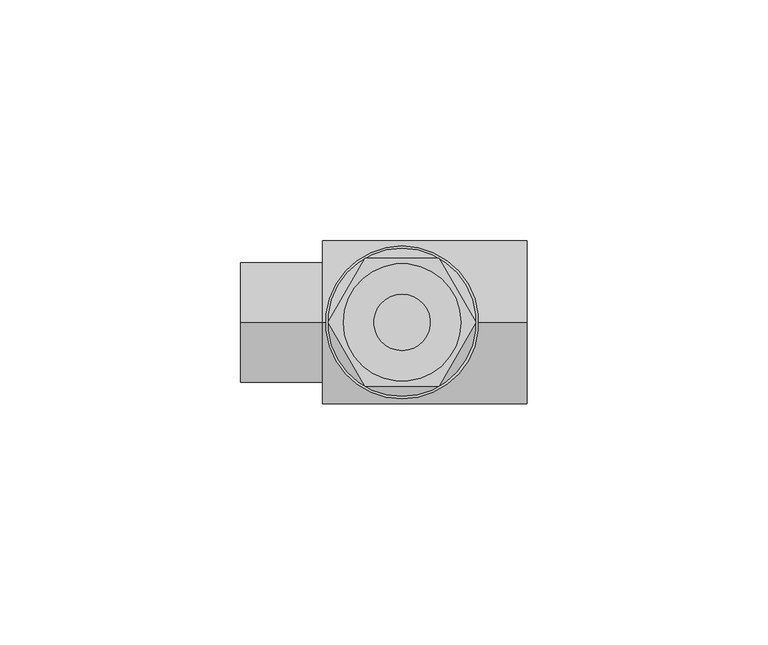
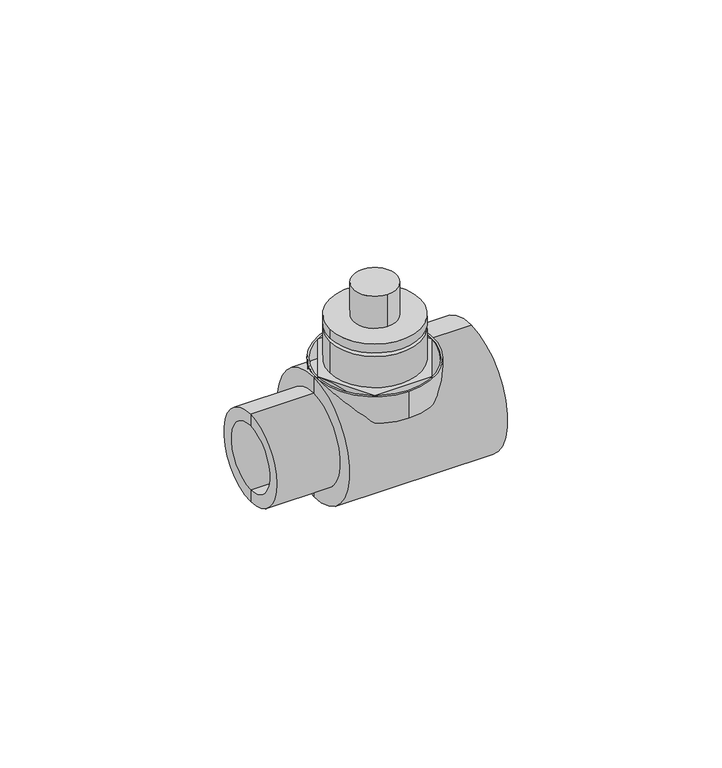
"""IFC4 building model written with IfcOpenShell, lengths in millimetres: valve geometry, Aquatherm - Draining Branch : DRAINING BRANCH."""

from ifc_helpers import new_model, si_unit, point, frame, origin, origin_2d, place, context, project, spatial, polyline, circle_curve, trimmed, segment, composite_curve, outline, extrude, source, transform, mapped, element, save
from ifc_brep_helpers import plane_surface, cylinder_surface, revolved_surface, advanced_brep


def valve_3e8b2c76(model_context):
    return source(origin(), model_context, "Body", "SolidModel", [
        extrude(outline(composite_curve([segment(trimmed(circle_curve(origin_2d(), 5.842), [point((0.0, 5.842))], [point((0.0, -5.842))], False, "CARTESIAN"), True, "CONTINUOUS"), segment(trimmed(circle_curve(origin_2d(), 5.842), [point((0.0, -5.842))], [point((0.0, 5.842))], False, "CARTESIAN"), True, "CONTINUOUS")], self_intersect=False)), frame((0.0, 0.0, 29.21), z_axis=(0.0, 0.0, 1.0), x_axis=(1.0, 0.0, 0.0)), (0.0, 0.0, 1.0), 9.144),
        extrude(outline(composite_curve([segment(trimmed(circle_curve(origin_2d(), 12.192), [point((12.192, 0.0))], [point((-12.192, 0.0))], False, "CARTESIAN"), True, "CONTINUOUS"), segment(trimmed(circle_curve(origin_2d(), 12.192), [point((-12.192, 0.0))], [point((12.192, 0.0))], False, "CARTESIAN"), True, "CONTINUOUS")], self_intersect=False)), frame((0.0, 0.0, 26.67), z_axis=(0.0, 0.0, 1.0), x_axis=(1.0, 0.0, 0.0)), (0.0, 0.0, 1.0), 2.54),
        extrude(outline(composite_curve([segment(trimmed(circle_curve(origin_2d(), 6.35), [point((6.35, 0.0))], [point((-6.35, 0.0))], False, "CARTESIAN"), True, "CONTINUOUS"), segment(trimmed(circle_curve(origin_2d(), 6.35), [point((-6.35, 0.0))], [point((6.35, 0.0))], False, "CARTESIAN"), True, "CONTINUOUS")], self_intersect=False)), frame((0.0, 0.0, 25.654), z_axis=(0.0, 0.0, 1.0), x_axis=(1.0, 0.0, 0.0)), (0.0, 0.0, 1.0), 1.016),
        extrude(outline(composite_curve([segment(trimmed(circle_curve(origin_2d(), 12.192), [point((12.192, 0.0))], [point((-12.192, 0.0))], False, "CARTESIAN"), True, "CONTINUOUS"), segment(trimmed(circle_curve(origin_2d(), 12.192), [point((-12.192, 0.0))], [point((12.192, 0.0))], False, "CARTESIAN"), True, "CONTINUOUS")], self_intersect=False)), frame((0.0, 0.0, 16.764), z_axis=(0.0, 0.0, 1.0), x_axis=(1.0, 0.0, 0.0)), (0.0, 0.0, 1.0), 8.89),
        extrude(outline(polyline([(15.367, 0.0), (7.6835, -13.3082124), (-7.6835, -13.3082124), (-15.367, 0.0), (-7.6835, 13.3082124), (7.6835, 13.3082124), (15.367, 0.0)])), frame((0.0, 0.0, 13.462), z_axis=(0.0, 0.0, 1.0), x_axis=(1.0, 0.0, 0.0)), (0.0, 0.0, 1.0), 3.302),
        extrude(outline(composite_curve([segment(trimmed(circle_curve(origin_2d(), 15.875), [point((0.0, 15.875))], [point((0.0, -15.875))], False, "CARTESIAN"), True, "CONTINUOUS"), segment(trimmed(circle_curve(origin_2d(), 15.875), [point((0.0, -15.875))], [point((0.0, 15.875))], False, "CARTESIAN"), True, "CONTINUOUS")], self_intersect=False), holes=[composite_curve([segment(trimmed(circle_curve(origin_2d(), 15.367), [point((0.0, 15.367))], [point((0.0, -15.367))], True, "CARTESIAN"), True, "CONTINUOUS"), segment(trimmed(circle_curve(origin_2d(), 15.367), [point((0.0, -15.367))], [point((0.0, 15.367))], True, "CARTESIAN"), True, "CONTINUOUS")], self_intersect=False)]), frame((0.0, 0.0, 9.144), z_axis=(0.0, 0.0, 1.0), x_axis=(1.0, 0.0, 0.0)), (0.0, 0.0, 1.0), 7.62),
        advanced_brep(
        [(-16.51, 0.0, -17.018), (-16.51, 0.0, 17.018), (25.908, 0.0, 17.018), (25.908, 0.0, -17.018), (-16.51, 0.0, -12.446), (-16.51, 0.0, 12.446), (-33.528, 0.0, -12.446), (-33.528, 0.0, 12.446), (-33.528, 0.0, -9.144), (-33.528, 0.0, 9.144), (9.906, 0.0, -9.144), (9.906, 0.0, 9.144), (9.906, 0.0, -12.446), (9.906, 0.0, 12.446), (25.908, 0.0, -12.446), (25.908, 0.0, 12.446)],
        [
            (0, 1, circle_curve(frame((-16.51, 0.0, 0.0), z_axis=(1.0, 0.0, 0.0), x_axis=(0.0, 0.0, 1.0)), 17.018)),
            (1, 2),
            (2, 3, circle_curve(frame((25.908, 0.0, 0.0), z_axis=(-1.0, 0.0, 0.0), x_axis=(0.0, 0.0, 1.0)), 17.018)),
            (3, 0),
            (1, 0, circle_curve(frame((-16.51, 0.0, 0.0), z_axis=(1.0, 0.0, 0.0), x_axis=(0.0, 0.0, 1.0)), 17.018)),
            (3, 2, circle_curve(frame((25.908, 0.0, 0.0), z_axis=(-1.0, 0.0, 0.0), x_axis=(0.0, 0.0, 1.0)), 17.018)),
            (4, 5, circle_curve(frame((-16.51, 0.0, 0.0), z_axis=(1.0, 0.0, 0.0), x_axis=(0.0, 0.0, 1.0)), 12.446)),
            (5, 1),
            (0, 4),
            (5, 4, circle_curve(frame((-16.51, 0.0, 0.0), z_axis=(1.0, 0.0, 0.0), x_axis=(0.0, 0.0, 1.0)), 12.446)),
            (6, 7, circle_curve(frame((-33.528, 0.0, 0.0), z_axis=(1.0, 0.0, 0.0), x_axis=(0.0, 0.0, 1.0)), 12.446)),
            (7, 5),
            (4, 6),
            (7, 6, circle_curve(frame((-33.528, 0.0, 0.0), z_axis=(1.0, 0.0, 0.0), x_axis=(0.0, 0.0, 1.0)), 12.446)),
            (8, 9, circle_curve(frame((-33.528, 0.0, 0.0), z_axis=(1.0, 0.0, 0.0), x_axis=(0.0, 0.0, 1.0)), 9.144)),
            (9, 7),
            (6, 8),
            (9, 8, circle_curve(frame((-33.528, 0.0, 0.0), z_axis=(1.0, 0.0, 0.0), x_axis=(0.0, 0.0, 1.0)), 9.144)),
            (10, 11, circle_curve(frame((9.906, 0.0, 0.0), z_axis=(1.0, 0.0, 0.0), x_axis=(0.0, 0.0, 1.0)), 9.144)),
            (11, 9),
            (8, 10),
            (11, 10, circle_curve(frame((9.906, 0.0, 0.0), z_axis=(1.0, 0.0, 0.0), x_axis=(0.0, 0.0, 1.0)), 9.144)),
            (12, 13, circle_curve(frame((9.906, 0.0, 0.0), z_axis=(1.0, 0.0, 0.0), x_axis=(0.0, 0.0, 1.0)), 12.446)),
            (13, 11),
            (10, 12),
            (13, 12, circle_curve(frame((9.906, 0.0, 0.0), z_axis=(1.0, 0.0, 0.0), x_axis=(0.0, 0.0, 1.0)), 12.446)),
            (14, 15, circle_curve(frame((25.908, 0.0, 0.0), z_axis=(1.0, 0.0, 0.0), x_axis=(0.0, 0.0, 1.0)), 12.446)),
            (15, 13),
            (12, 14),
            (15, 14, circle_curve(frame((25.908, 0.0, 0.0), z_axis=(1.0, 0.0, 0.0), x_axis=(0.0, 0.0, 1.0)), 12.446)),
            (2, 15),
            (14, 3),
        ],
        [
            cylinder_surface(frame((-39.878, 0.0, 0.0), z_axis=(-1.0, 0.0, 0.0), x_axis=(0.0, 0.0, 1.0)), 17.018),
            plane_surface(frame((-16.51, 0.0, 0.0), z_axis=(-1.0, 0.0, 0.0), x_axis=(0.0, 0.0, 1.0))),
            cylinder_surface(frame((-39.878, 0.0, 0.0), z_axis=(-1.0, 0.0, 0.0), x_axis=(0.0, 0.0, 1.0)), 12.446),
            plane_surface(frame((-33.528, 0.0, 0.0), z_axis=(-1.0, 0.0, 0.0), x_axis=(0.0, 0.0, 1.0))),
            revolved_surface(polyline([(-33.528, 0.0, 9.144), (9.905999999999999, 0.0, 9.144)]), (-39.878, 0.0, 0.0), (-1.0, 0.0, 0.0)),
            plane_surface(frame((9.906, 0.0, 0.0), z_axis=(1.0, 0.0, 0.0), x_axis=(0.0, 0.0, 1.0))),
            revolved_surface(polyline([(9.905999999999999, 0.0, 12.446), (25.908, 0.0, 12.446)]), (-39.878, 0.0, 0.0), (-1.0, 0.0, 0.0)),
            plane_surface(frame((25.908, 0.0, 0.0), z_axis=(1.0, 0.0, 0.0), x_axis=(0.0, 0.0, 1.0))),
        ],
        [
            (0, [[1, 2, 3, 4]]),
            (0, [[5, -4, 6, -2]]),
            (1, [[7, 8, -1, 9]]),
            (1, [[10, -9, -5, -8]]),
            (2, [[11, 12, -7, 13]]),
            (2, [[14, -13, -10, -12]]),
            (3, [[15, 16, -11, 17]]),
            (3, [[18, -17, -14, -16]]),
            (4, [[19, 20, -15, 21]]),
            (4, [[22, -21, -18, -20]]),
            (5, [[23, 24, -19, 25]]),
            (5, [[26, -25, -22, -24]]),
            (6, [[27, 28, -23, 29]]),
            (6, [[30, -29, -26, -28]]),
            (7, [[-3, 31, -27, 32]]),
            (7, [[-6, -32, -30, -31]]),
        ],
    ),
    ])


if __name__ == "__main__":
    model = new_model("IFC4")
    model_context = context("Model", 3, world=origin())
    ifc_project = project(units=[si_unit("LENGTHUNIT", "METRE", prefix="MILLI")], contexts=[model_context])
    site = spatial("IfcSite", under=ifc_project)
    building = spatial("IfcBuilding", under=site)
    placement = place(None, origin())
    valve_shape = valve_3e8b2c76(model_context)
    element("IfcValve", 1, ObjectType="Aquatherm - Draining Branch : DRAINING BRANCH", at=placement, inside=building, context=model_context, shape_type="MappedRepresentation", body=[
        mapped(valve_shape, transform((0.0, 0.0, 0.0), x_axis=(1.0, 0.0, 0.0), y_axis=(0.0, 1.0, 0.0), z_axis=(0.0, 0.0, 1.0))),
    ])
    save(model, "model.ifc")
